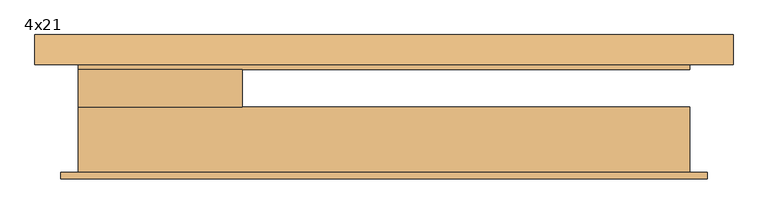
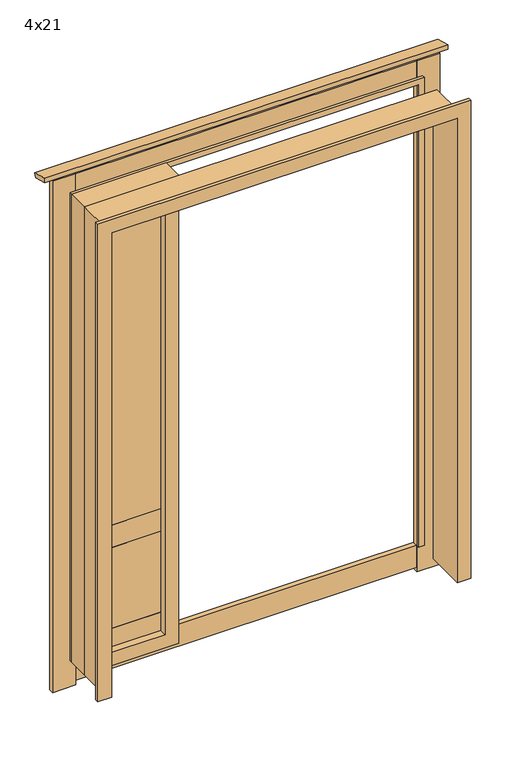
"""IFC4 building model written with IfcOpenShell, lengths in millimetres: door geometry, Sidefelt HS : 4x21."""

from ifc_helpers import new_model, si_unit, frame, origin, place, context, project, spatial, polyline, outline, extrude, faceted_brep, source, transform, mapped, element, save


def door_4x21_9b28eff4(model_context):
    return source(origin(), model_context, "Body", "SolidModel", [
        extrude(outline(polyline([(-455.0, 96.0), (-135.0, 96.0), (-135.0, 60.0), (-455.0, 60.0), (-455.0, 96.0)])), frame((0.0, 0.0, 140.0), z_axis=(0.0, 0.0, 1.0), x_axis=(1.0, 0.0, 0.0)), (0.0, 0.0, 1.0), 360.0),
        extrude(outline(polyline([(-455.0, 108.0), (-135.0, 108.0), (-135.0, 60.0), (-455.0, 60.0), (-455.0, 108.0)])), frame((0.0, 0.0, 40.0), z_axis=(0.0, 0.0, 1.0), x_axis=(1.0, 0.0, 0.0)), (0.0, 0.0, 1.0), 100.0),
        extrude(outline(polyline([(-455.0, 108.0), (-135.0, 108.0), (-135.0, 60.0), (-455.0, 60.0), (-455.0, 108.0)])), frame((0.0, 0.0, 1948.0), z_axis=(0.0, 0.0, 1.0), x_axis=(1.0, 0.0, 0.0)), (0.0, 0.0, 1.0), 100.0),
        extrude(outline(polyline([(-455.0, 108.0), (-135.0, 108.0), (-135.0, 60.0), (-455.0, 60.0), (-455.0, 108.0)])), frame((0.0, 0.0, 500.0), z_axis=(0.0, 0.0, 1.0), x_axis=(1.0, 0.0, 0.0)), (0.0, 0.0, 1.0), 100.0),
        extrude(outline(polyline([(-455.0, 84.0), (-135.0, 84.0), (-135.0, 60.0), (-455.0, 60.0), (-455.0, 84.0)])), frame((0.0, 0.0, 600.0), z_axis=(0.0, 0.0, 1.0), x_axis=(1.0, 0.0, 0.0)), (0.0, 0.0, 1.0), 1348.0),
        faceted_brep([(-495.0, 120.0, 0.0), (-495.0, 28.0, 0.0), (-495.0, 28.0, 2088.0), (-495.0, 120.0, 2088.0), (-455.0, 60.0, 40.0), (-455.0, 120.0, 40.0), (-455.0, 120.0, 2048.0), (-455.0, 60.0, 2048.0), (-437.0, 28.0, 58.0), (-437.0, 60.0, 58.0), (-437.0, 60.0, 2030.0), (-437.0, 28.0, 2030.0), (-95.0, 28.0, 2088.0), (-95.0, 120.0, 2088.0), (-135.0, 120.0, 2048.0), (-135.0, 60.0, 2048.0), (-153.0, 60.0, 2030.0), (-153.0, 28.0, 2030.0), (-95.0, 28.0, 0.0), (-95.0, 120.0, 0.0), (-135.0, 120.0, 40.0), (-135.0, 60.0, 40.0), (-153.0, 60.0, 58.0), (-153.0, 28.0, 58.0)], [[[0, 1, 2, 3]], [[4, 5, 6, 7]], [[8, 9, 10, 11]], [[3, 2, 12, 13]], [[7, 6, 14, 15]], [[11, 10, 16, 17]], [[13, 12, 18, 19]], [[15, 14, 20, 21]], [[17, 16, 22, 23]], [[19, 18, 1, 0]], [[3, 13, 19, 0], [5, 20, 14, 6]], [[21, 20, 5, 4]], [[7, 15, 21, 4], [9, 22, 16, 10]], [[23, 22, 9, 8]], [[1, 18, 12, 2], [11, 17, 23, 8]]]),
        extrude(outline(polyline([(-470.0, 132.0), (-470.0, 154.0), (970.0, 154.0), (970.0, 132.0), (-470.0, 132.0)])), frame((0.0, 0.0, 2065.0), z_axis=(0.0, 0.0, 1.0), x_axis=(1.0, 0.0, 0.0)), (0.0, 0.0, 1.0), 98.0),
        extrude(outline(polyline([(204.444437, 2168.9885716), (199.5268751, 2150.6359809), (132.0, 2168.7297526), (132.0, 2188.4), (204.444437, 2168.9885716)])), frame((-601.0, 0.0, 0.0), z_axis=(1.0, 0.0, 0.0), x_axis=(0.0, 1.0, 0.0)), (0.0, 0.0, 1.0), 1702.0),
        extrude(outline(polyline([(1068.0, 132.0), (970.0, 132.0), (970.0, 154.0), (1068.0, 154.0), (1068.0, 132.0)])), frame((0.0, 0.0, -118.0), z_axis=(0.0, 0.0, 1.0), x_axis=(1.0, 0.0, 0.0)), (0.0, 0.0, 1.0), 2281.0),
        extrude(outline(polyline([(-470.0, 132.0), (-568.0, 132.0), (-568.0, 154.0), (-470.0, 154.0), (-470.0, 132.0)])), frame((0.0, 0.0, -118.0), z_axis=(0.0, 0.0, 1.0), x_axis=(1.0, 0.0, 0.0)), (0.0, 0.0, 1.0), 2281.0),
        extrude(outline(polyline([(-470.0, 132.0), (-470.0, 154.0), (970.0, 154.0), (970.0, 132.0), (-470.0, 132.0)])), frame((0.0, 0.0, -97.9948268), z_axis=(0.0, 0.0, 1.0), x_axis=(1.0, 0.0, 0.0)), (0.0, 0.0, 1.0), 97.9948268),
        extrude(outline(polyline([(0.0, 970.0), (0.0, 995.0), (2088.0, 995.0), (2088.0, -495.0), (0.0, -495.0), (0.0, -470.0), (2063.0, -470.0), (2063.0, 970.0), (0.0, 970.0)])), frame((0.0, 120.0, 0.0), z_axis=(0.0, 1.0, 0.0), x_axis=(0.0, 0.0, 1.0)), (0.0, 0.0, 1.0), 12.0),
        faceted_brep([(-495.0, -132.0, 0.0), (-495.0, 28.0, 0.0), (-480.0, 28.0, 0.0), (-480.0, -147.0, 0.0), (-538.0, -147.0, 0.0), (-538.0, -132.0, 0.0), (-495.0, -132.0, 2088.0), (-495.0, 28.0, 2088.0), (995.0, 28.0, 2088.0), (995.0, 28.0, 0.0), (980.0, 28.0, 0.0), (980.0, 28.0, 2073.0), (-480.0, 28.0, 2073.0), (-480.0, -147.0, 2073.0), (980.0, -147.0, 2073.0), (980.0, -147.0, 0.0), (1038.0, -147.0, 0.0), (1038.0, -147.0, 2131.0), (-538.0, -147.0, 2131.0), (-538.0, -132.0, 2131.0), (1038.0, -132.0, 2131.0), (1038.0, -132.0, 0.0), (995.0, -132.0, 0.0), (995.0, -132.0, 2088.0)], [[[0, 1, 2, 3, 4, 5]], [[1, 0, 6, 7]], [[2, 1, 7, 8, 9, 10, 11, 12]], [[3, 2, 12, 13]], [[4, 3, 13, 14, 15, 16, 17, 18]], [[5, 4, 18, 19]], [[0, 5, 19, 20, 21, 22, 23, 6]], [[8, 23, 22, 9]], [[22, 21, 16, 15, 10, 9]], [[14, 11, 10, 15]], [[20, 17, 16, 21]], [[7, 6, 23, 8]], [[13, 12, 11, 14]], [[19, 18, 17, 20]]]),
    ])


if __name__ == "__main__":
    model = new_model("IFC4")
    model_context = context("Model", 3, world=origin())
    ifc_project = project(units=[si_unit("LENGTHUNIT", "METRE", prefix="MILLI")], contexts=[model_context])
    site = spatial("IfcSite", under=ifc_project)
    building = spatial("IfcBuilding", under=site)
    placement = place(None, origin())
    door_4x21_shape = door_4x21_9b28eff4(model_context)
    element("IfcDoor", 1, ObjectType="Sidefelt HS : 4x21", at=placement, inside=building, context=model_context, shape_type="MappedRepresentation", body=[
        mapped(door_4x21_shape, transform((0.0, 0.0, 0.0), x_axis=(1.0, 0.0, 0.0), y_axis=(0.0, 1.0, 0.0), z_axis=(0.0, 0.0, 1.0))),
    ])
    save(model, "model.ifc")
